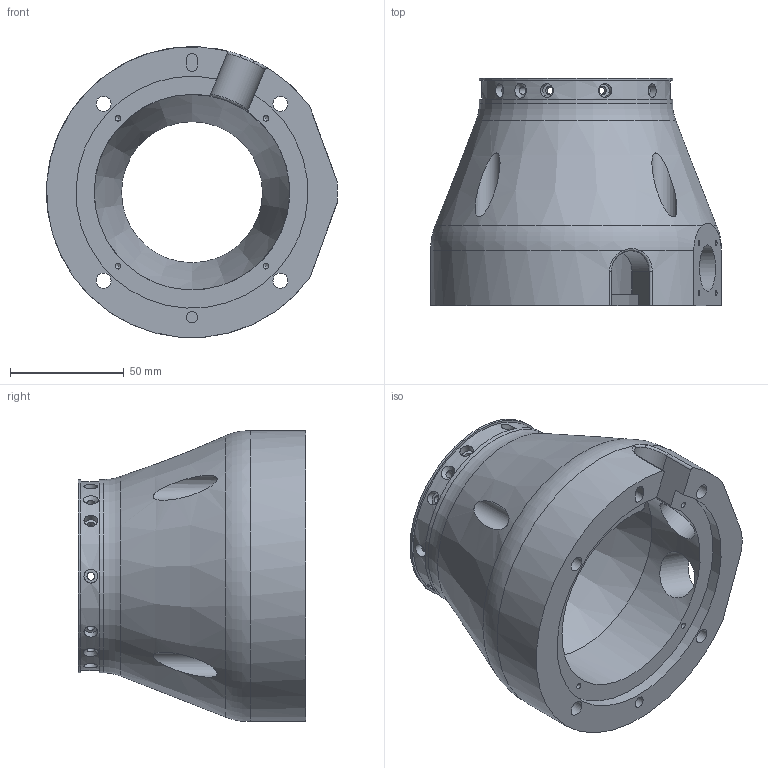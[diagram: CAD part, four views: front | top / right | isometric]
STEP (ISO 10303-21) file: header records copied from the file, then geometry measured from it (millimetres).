
FILE_DESCRIPTION (( 'STEP AP214' ), '1' );
FILE_NAME ('2-054-001 3kg菁釱.STEP', '2026-05-21T03:39:26', ( 'Windows User' ), ( 'P R C' ), 'SwSTEP 2.0', 'SolidWorks 2021', '' );
FILE_SCHEMA (( 'AUTOMOTIVE_DESIGN' ));
Length unit declared in the file: millimetre
Products named in the file (1): 2-054-001 3kg菁釱
Bounding box: 127.94 x 100 x 127.82 mm (x, y, z)
Volume: 434440 mm3; surface area: 79416.5 mm2
Topology: 1 solids, 1 shells, 113 faces, 265 edges, 171 vertices
Faces by surface type: cylinder 61, plane 27, cone 17, torus 4, bspline 4
Full cylindrical faces by diameter (mm): 2.5 x12, 3.4 x12, 5 x1, 6 x9, 6.6 x4, 11 x4, 20.5 x2, 62 x1, 71 x1, 83 x1, 85 x2, 86 x1
Entity records: 5318 total; most frequent: CARTESIAN_POINT 2925, DIRECTION 448, ORIENTED_EDGE 346, EDGE_LOOP 237, AXIS2_PLACEMENT_3D 209, EDGE_CURVE 173, FACE_OUTER_BOUND 165, VERTEX_POINT 148
